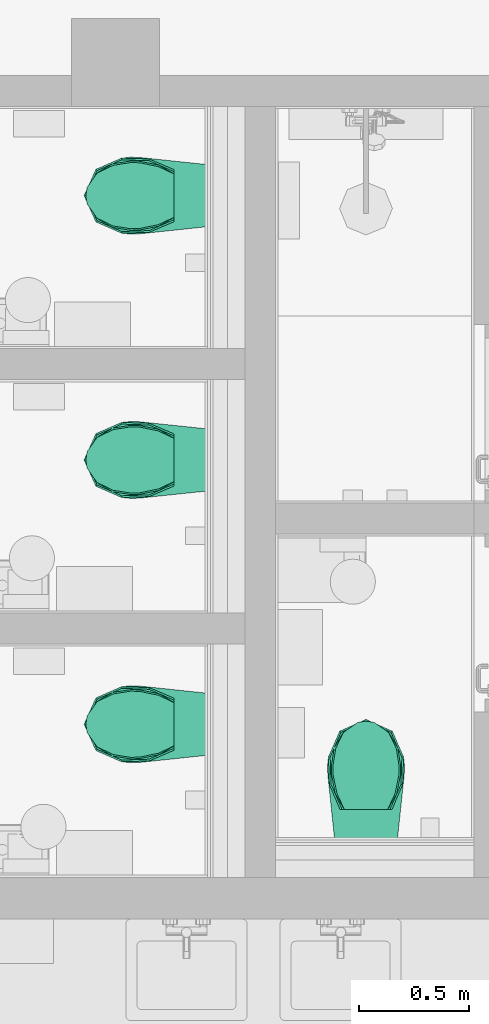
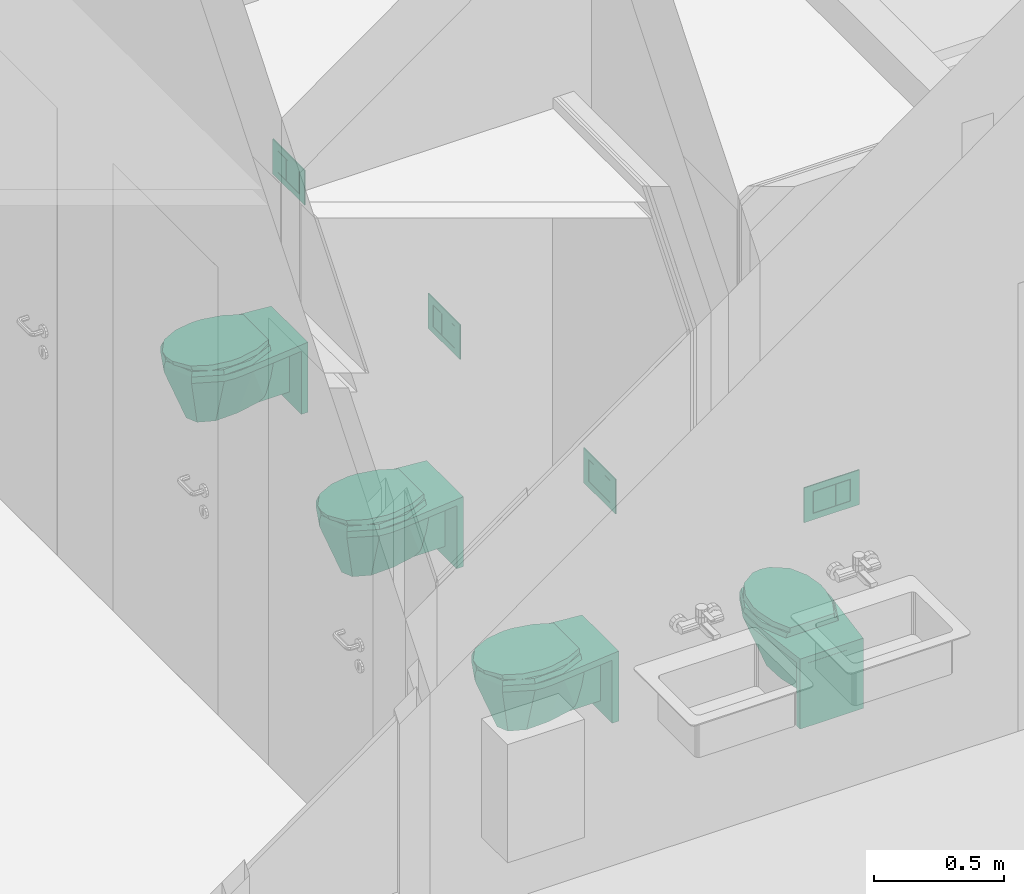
# One storey, part 247 of 301: 4 flow terminals.
"""IFC2X3 building model written with IfcOpenShell, lengths in millimetres."""

from ifc_helpers import new_model, entity, si_unit, converted_unit, derived_unit, money_unit, direction, frame, origin_with_axes, place, context, subcontext, project, spatial, faceted_brep, source, transform, mapped, type_object, element, save


model = new_model("IFC2X3")

# Units and contexts
model_context = context("Model", 3, precision=0.01, world=origin_with_axes(), true_north=direction((0.0, 1.0)))
body_context = subcontext(model_context, "Body", "Model", "MODEL_VIEW")
ifc_project = project(units=[si_unit("LENGTHUNIT", "METRE", prefix="MILLI"), si_unit("AREAUNIT", "SQUARE_METRE"), si_unit("VOLUMEUNIT", "CUBIC_METRE"), converted_unit("PLANEANGLEUNIT", "DEGREE", entity("IfcPlaneAngleMeasure", 0.0174532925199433), si_unit("PLANEANGLEUNIT", "RADIAN"), dimensions=[0, 0, 0, 0, 0, 0, 0]), money_unit("EUR"), converted_unit("TIMEUNIT", "Year", entity("IfcTimeMeasure", 31557600.0), si_unit("TIMEUNIT", "SECOND"), dimensions=[0, 0, 1, 0, 0, 0, 0]), si_unit("MASSUNIT", "GRAM", prefix="KILO"), si_unit("THERMODYNAMICTEMPERATUREUNIT", "DEGREE_CELSIUS"), si_unit("LUMINOUSINTENSITYUNIT", "LUMEN"), si_unit("ENERGYUNIT", "JOULE", prefix="MEGA"), derived_unit("THERMALCONDUCTANCEUNIT", [(si_unit("POWERUNIT", "WATT"), 1), (si_unit("LENGTHUNIT", "METRE"), -1), (si_unit("THERMODYNAMICTEMPERATUREUNIT", "KELVIN"), -1)]), derived_unit("SPECIFICHEATCAPACITYUNIT", [(si_unit("ENERGYUNIT", "JOULE"), 1), (si_unit("MASSUNIT", "GRAM", prefix="KILO"), -1), (si_unit("THERMODYNAMICTEMPERATUREUNIT", "KELVIN"), -1)]), derived_unit("MASSDENSITYUNIT", [(si_unit("MASSUNIT", "GRAM", prefix="KILO"), 1), (si_unit("VOLUMEUNIT", "CUBIC_METRE"), -1)])], contexts=[model_context])

# Site, building, storey
site_placement = place(None, frame((0.0, 0.0, 8650.0), z_axis=(0.0, 0.0, 1.0), x_axis=(1.0, 0.0, 0.0)))
site = spatial("IfcSite", under=ifc_project, at=site_placement, Name="43301:001:0844", CompositionType="ELEMENT")
building_placement = place(site_placement, origin_with_axes())
building = spatial("IfcBuilding", under=site, at=building_placement, Name="Kuressaare Ametikooli tuulikute mehaanikute õppekorpus", CompositionType="ELEMENT")
storey_placement = place(building_placement, origin_with_axes())
storey = spatial("IfcBuildingStorey", under=building, at=storey_placement, Name="1.korrus", CompositionType="ELEMENT", Elevation=0.0)

# Flow terminals
sanitary_terminal_type = type_object("IfcSanitaryTerminalType", Name="WC 27", PredefinedType="NOTDEFINED")
shared_shape = source(origin_with_axes(), body_context, "Body", "Brep", [
    faceted_brep([(-141.0283315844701, -29.31865370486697, 69.99999999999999), (-141.0283315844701, 0.4949050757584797, 69.99999999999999), (141.0283315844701, 0.4949050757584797, 69.99999999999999), (141.0283315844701, -29.31865370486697, 69.99999999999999), (-141.0283315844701, -29.31865370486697, 370.0), (-141.0283315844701, 0.4949050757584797, 370.0), (141.0283315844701, 0.4949050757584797, 370.0), (141.0283315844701, -29.31865370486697, 370.0)], [[[0, 1, 2, 3]], [[0, 4, 5, 1]], [[1, 5, 6, 2]], [[2, 6, 7, 3]], [[3, 7, 4, 0]], [[7, 6, 5, 4]]]),
    faceted_brep([(-101.7881776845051, -122.4661491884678, 370.0), (-164.8111927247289, -257.2969749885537, 370.0), (-170.4738719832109, -389.7973742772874, 370.0), (-119.554809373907, -506.3435444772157, 370.0), (0.0, -560.0, 370.0), (119.554809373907, -506.3435444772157, 370.0), (170.4738719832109, -389.7973742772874, 370.0), (164.8111927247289, -257.295981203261, 370.0), (101.7881776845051, -122.4661491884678, 370.0), (48.96817068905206, -87.43521908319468, 370.0), (48.96817068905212, -29.31865370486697, 370.0), (-48.96817068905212, -29.31865370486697, 370.0), (-48.96817068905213, -87.43521908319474, 370.0), (-63.65862189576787, -201.5126978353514, 370.0), (0.0, -179.8771255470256, 370.0), (63.65862189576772, -201.5126978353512, 370.0), (110.2599674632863, -260.6221805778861, 370.0), (127.3172437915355, -341.3672356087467, 370.0), (110.2599674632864, -422.1122906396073, 370.0), (63.65862189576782, -481.2217733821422, 370.0), (0.0, -502.8573456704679, 370.0), (-63.65862189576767, -481.2217733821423, 370.0), (-110.2599674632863, -422.1122906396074, 370.0), (-127.3172437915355, -341.3672356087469, 370.0), (-110.2599674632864, -260.6221805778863, 370.0), (-70.97348723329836, -270.8651255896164, 120.0), (-74.94382651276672, -372.4786779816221, 120.0), (-47.75865687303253, -440.0938417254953, 120.0), (0.0, -461.5278029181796, 120.0), (47.75865687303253, -440.0938417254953, 120.0), (74.94382651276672, -372.4786779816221, 120.0), (70.97348723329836, -270.8651255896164, 120.0), (48.96817068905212, -141.8100147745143, 135.0708656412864), (48.96817068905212, -132.9294031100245, 150.8349994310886), (48.96817068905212, -111.9632571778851, 220.0911688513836), (48.96817068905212, -168.852251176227, 120.0), (48.96817068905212, -29.31865370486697, 120.0), (-48.96817068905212, -29.31865370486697, 120.0), (-48.96817068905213, -168.852251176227, 120.0), (-48.96817068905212, -132.9294031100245, 150.8349994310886), (-24.48408534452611, -287.5770287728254, 170.0), (0.0, -279.2556548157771, 170.0), (24.48408534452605, -287.5770287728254, 170.0), (42.40767979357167, -310.3114452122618, 170.0), (48.96817068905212, -341.3672356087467, 170.0), (42.40767979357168, -372.4230260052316, 170.0), (24.48408534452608, -395.1574424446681, 170.0), (0.0, -403.4788164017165, 170.0), (-24.48408534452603, -395.1574424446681, 170.0), (-42.40767979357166, -372.4230260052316, 170.0), (-48.96817068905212, -341.3672356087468, 170.0), (-42.4076797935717, -310.311445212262, 170.0)], [[[0, 1, 2, 3, 4, 5, 6, 7, 8, 9, 10, 11, 12], [13, 14, 15, 16, 17, 18, 19, 20, 21, 22, 23, 24]], [[0, 25, 1]], [[1, 26, 2]], [[2, 27, 3]], [[3, 28, 4]], [[4, 29, 5]], [[5, 30, 6]], [[6, 31, 7]], [[8, 7, 32, 33]], [[8, 34, 9]], [[33, 32, 35, 36, 10, 9, 34]], [[10, 36, 37, 11]], [[12, 11, 37, 38, 39]], [[0, 12, 39]], [[13, 40, 41, 14]], [[14, 41, 42, 15]], [[15, 42, 43, 16]], [[16, 43, 44, 17]], [[17, 44, 45, 18]], [[18, 45, 46, 19]], [[19, 46, 47, 20]], [[20, 47, 48, 21]], [[21, 48, 49, 22]], [[22, 49, 50, 23]], [[23, 50, 51, 24]], [[24, 51, 40, 13]], [[25, 0, 39, 38]], [[25, 26, 1]], [[26, 27, 2]], [[27, 28, 3]], [[28, 29, 4]], [[29, 30, 5]], [[30, 31, 6]], [[7, 31, 35, 32]], [[8, 33, 34]], [[31, 30, 29, 28, 27, 26, 25, 38, 37, 36, 35]], [[40, 51, 50, 49, 48, 47, 46, 45, 44, 43, 42, 41]]]),
    faceted_brep([(174.8222455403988, -348.2949128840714, 370.0), (170.4738719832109, -389.7973742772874, 370.0), (119.554809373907, -506.3435444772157, 370.0), (0.0, -560.0, 370.0), (-119.554809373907, -506.3435444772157, 370.0), (-170.4738719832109, -389.7973742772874, 370.0), (-174.8222455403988, -348.2949128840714, 370.0), (-173.3473242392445, -306.5847503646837, 370.0), (-140.975445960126, 0.0, 370.0), (140.9734872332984, 0.0, 370.0), (173.3473242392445, -306.5847503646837, 370.0), (-83.6883665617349, -472.7512164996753, 370.0), (0.0, -510.3107353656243, 370.0), (83.6883665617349, -472.7512164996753, 370.0), (119.3317103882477, -391.1688973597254, 370.0), (122.3755718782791, -362.1171743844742, 370.0), (121.3431269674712, -332.9200606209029, 370.0), (98.68144106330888, -201.7886999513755, 370.0), (-98.68281217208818, -201.7886999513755, 370.0), (-121.3431269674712, -332.9200606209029, 370.0), (-122.3755718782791, -362.1171743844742, 370.0), (-119.3317103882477, -391.1688973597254, 370.0), (174.8222455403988, -348.2949128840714, 400.0), (170.4738719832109, -389.7973742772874, 400.0), (119.554809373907, -506.3435444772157, 400.0), (0.0, -560.0, 400.0), (-119.554809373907, -506.3435444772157, 400.0), (-170.4738719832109, -389.7973742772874, 400.0), (-174.8222455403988, -348.2949128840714, 400.0), (-173.3473242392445, -306.5847503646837, 400.0), (-140.975445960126, 0.0, 400.0), (140.9734872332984, 0.0, 400.0), (173.3473242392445, -306.5847503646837, 400.0), (0.0, -510.3107353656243, 400.0), (-83.6883665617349, -472.7512164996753, 400.0), (83.6883665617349, -472.7512164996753, 400.0), (119.3317103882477, -391.1688973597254, 400.0), (122.3755718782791, -362.1171743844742, 400.0), (121.3431269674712, -332.9200606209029, 400.0), (98.68144106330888, -201.7886999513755, 400.0), (-98.68281217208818, -201.7886999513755, 400.0), (-121.3431269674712, -332.9200606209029, 400.0), (-122.3755718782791, -362.1171743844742, 400.0), (-119.3317103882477, -391.1688973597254, 400.0)], [[[0, 1, 2, 3, 4, 5, 6, 7, 8, 9, 10], [11, 12, 13, 14, 15, 16, 17, 18, 19, 20, 21]], [[22, 23, 1, 0]], [[23, 24, 2, 1]], [[24, 25, 3, 2]], [[25, 26, 4, 3]], [[26, 27, 5, 4]], [[27, 28, 6, 5]], [[28, 29, 7, 6]], [[29, 30, 8, 7]], [[30, 31, 9, 8]], [[31, 32, 10, 9]], [[32, 22, 0, 10]], [[33, 12, 11, 34]], [[35, 13, 12, 33]], [[36, 14, 13, 35]], [[37, 15, 14, 36]], [[38, 16, 15, 37]], [[39, 17, 16, 38]], [[40, 18, 17, 39]], [[41, 19, 18, 40]], [[42, 20, 19, 41]], [[43, 21, 20, 42]], [[34, 11, 21, 43]], [[31, 30, 29, 28, 27, 26, 25, 24, 23, 22, 32], [40, 39, 38, 37, 36, 35, 33, 34, 43, 42, 41]]]),
    faceted_brep([(-170.4738719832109, -389.7973742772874, 400.0), (-166.4663168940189, -264.4263906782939, 400.0), (-118.2121021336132, -151.3163525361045, 400.0), (118.2121021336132, -151.3163525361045, 400.0), (166.4663168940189, -264.4263906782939, 400.0), (170.4738719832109, -389.7973742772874, 400.0), (119.554809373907, -506.3435444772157, 400.0), (0.0, -560.0, 400.0), (-119.554809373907, -506.3435444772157, 400.0), (-87.07689659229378, -411.9963613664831, 400.0), (-76.4888004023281, -438.0775703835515, 400.0), (-62.06856874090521, -459.4262123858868, 400.0), (-44.26109835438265, -474.4067566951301, 400.0), (-23.02579943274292, -483.9023013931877, 400.0), (0.0, -487.1544663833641, 400.0), (23.02579943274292, -483.9023013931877, 400.0), (44.26109835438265, -474.4067566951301, 400.0), (62.06856874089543, -459.4262123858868, 400.0), (76.4888004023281, -438.0775703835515, 400.0), (87.07689659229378, -411.9963613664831, 400.0), (94.51085540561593, -382.2763031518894, 400.0), (97.71606496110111, -351.7983255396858, 400.0), (96.61425296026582, -320.7429308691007, 400.0), (90.99294096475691, -286.7942733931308, 400.0), (81.3289539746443, -253.3384220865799, 400.0), (68.75412876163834, -223.4663237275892, 400.0), (-68.75448552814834, -223.4663237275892, 400.0), (-81.32886310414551, -253.3381075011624, 400.0), (-90.99294096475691, -286.7942733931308, 400.0), (-96.61425296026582, -320.7429308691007, 400.0), (-97.71606496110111, -351.7983255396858, 400.0), (-94.51085540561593, -382.2763031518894, 400.0), (-158.5902763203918, -264.9332211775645, 420.0000000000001), (-108.940468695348, -151.3163525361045, 420.0000000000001), (108.940468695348, -151.3163525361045, 420.0000000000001), (158.5902763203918, -264.9332211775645, 420.0000000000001), (162.8034977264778, -388.4070686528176, 420.0000000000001), (113.7912556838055, -501.0248055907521, 420.0000000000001), (0.0, -552.0944379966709, 420.0000000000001), (-113.7912556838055, -501.0248055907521, 420.0000000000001), (-162.8034977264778, -388.4070686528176, 420.0000000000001), (-76.4888004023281, -438.0775703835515, 420.0000000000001), (-87.07689659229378, -411.9963613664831, 420.0000000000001), (-62.06856874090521, -459.4262123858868, 420.0000000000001), (-44.26109835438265, -474.4067566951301, 420.0000000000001), (-23.02579943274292, -483.9023013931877, 420.0000000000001), (0.0, -487.1544663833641, 420.0000000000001), (23.02579943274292, -483.9023013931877, 420.0000000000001), (44.26109835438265, -474.4067566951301, 420.0000000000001), (62.06856874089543, -459.4262123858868, 420.0000000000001), (76.4888004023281, -438.0775703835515, 420.0000000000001), (87.07689659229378, -411.9963613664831, 420.0000000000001), (94.51085540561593, -382.2763031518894, 420.0000000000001), (97.71606496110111, -351.7983255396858, 420.0000000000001), (96.61425296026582, -320.7429308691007, 420.0000000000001), (90.99294096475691, -286.7942733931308, 420.0000000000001), (81.3289539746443, -253.3384220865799, 420.0000000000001), (68.75412876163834, -223.4663237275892, 420.0000000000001), (-68.75448552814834, -223.4663237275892, 420.0000000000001), (-81.32886310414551, -253.3381075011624, 420.0000000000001), (-90.99294096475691, -286.7942733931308, 420.0000000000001), (-96.61425296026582, -320.7429308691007, 420.0000000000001), (-97.71606496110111, -351.7983255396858, 420.0000000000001), (-94.51085540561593, -382.2763031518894, 420.0000000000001)], [[[0, 1, 2, 3, 4, 5, 6, 7, 8], [9, 10, 11, 12, 13, 14, 15, 16, 17, 18, 19, 20, 21, 22, 23, 24, 25, 26, 27, 28, 29, 30, 31]], [[0, 32, 1]], [[1, 33, 2]], [[3, 2, 33, 34]], [[3, 35, 4]], [[4, 36, 5]], [[5, 37, 6]], [[6, 38, 7]], [[7, 39, 8]], [[8, 40, 0]], [[41, 10, 9, 42]], [[43, 11, 10, 41]], [[44, 12, 11, 43]], [[45, 13, 12, 44]], [[46, 14, 13, 45]], [[47, 15, 14, 46]], [[48, 16, 15, 47]], [[49, 17, 16, 48]], [[50, 18, 17, 49]], [[51, 19, 18, 50]], [[52, 20, 19, 51]], [[53, 21, 20, 52]], [[54, 22, 21, 53]], [[55, 23, 22, 54]], [[56, 24, 23, 55]], [[57, 25, 24, 56]], [[58, 26, 25, 57]], [[59, 27, 26, 58]], [[60, 28, 27, 59]], [[61, 29, 28, 60]], [[62, 30, 29, 61]], [[63, 31, 30, 62]], [[42, 9, 31, 63]], [[0, 40, 32]], [[1, 32, 33]], [[34, 33, 32, 40, 39, 38, 37, 36, 35], [60, 59, 58, 57, 56, 55, 54, 53, 52, 51, 50, 49, 48, 47, 46, 45, 44, 43, 41, 42, 63, 62, 61]], [[3, 34, 35]], [[4, 35, 36]], [[5, 36, 37]], [[6, 37, 38]], [[7, 38, 39]], [[8, 39, 40]]]),
    faceted_brep([(107.5993284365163, -494.4181209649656, 420.0000000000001), (37.93662119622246, -546.1188070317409, 440.0000000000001), (39.85813221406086, -538.8154789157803, 420.0000000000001), (102.412130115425, -501.0248055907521, 440.0000000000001), (0.0, -552.0944379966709, 440.0000000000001), (0.0, -545.0932206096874, 420.0000000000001), (-39.85813221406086, -538.8154789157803, 420.0000000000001), (-107.5993284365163, -494.4181209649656, 420.0000000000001), (-144.3513116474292, -430.2603362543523, 420.0000000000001), (-157.3400209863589, -348.2949128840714, 420.0000000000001), (-156.01259181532, -306.5847503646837, 420.0000000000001), (-139.3844700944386, -223.3443004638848, 420.0000000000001), (-99.17339219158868, -151.3163525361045, 420.0000000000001), (99.17339219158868, -151.3163525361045, 420.0000000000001), (139.3844700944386, -223.3443004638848, 420.0000000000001), (156.01259181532, -306.5847503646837, 420.0000000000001), (157.3400209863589, -348.2949128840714, 420.0000000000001), (144.3504302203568, -430.2603362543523, 420.0000000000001), (137.6912486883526, -427.7848170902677, 440.0000000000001), (150.3317943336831, -348.0176467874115, 440.0000000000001), (149.0405036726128, -307.4274802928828, 440.0000000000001), (132.0192654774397, -223.5758524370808, 440.0000000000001), (98.04642182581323, -151.3163525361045, 440.0000000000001), (-98.04642182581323, -151.3163525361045, 440.0000000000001), (-132.0192654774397, -223.5758524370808, 440.0000000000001), (-149.0405036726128, -307.4274802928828, 440.0000000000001), (-150.3317943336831, -348.0176467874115, 440.0000000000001), (-137.6912486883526, -427.7848170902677, 440.0000000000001), (-102.412130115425, -501.0248055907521, 440.0000000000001), (-37.93662119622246, -546.1188070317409, 440.0000000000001)], [[[0, 1, 2]], [[0, 3, 1]], [[2, 1, 4]], [[0, 2, 5, 6, 7, 8, 9, 10, 11, 12, 13, 14, 15, 16, 17]], [[17, 3, 0]], [[3, 18, 19, 20, 21, 22, 23, 24, 25, 26, 27, 28, 29, 4, 1]], [[2, 4, 5]], [[5, 29, 6]], [[6, 28, 7]], [[7, 27, 8]], [[8, 26, 9]], [[9, 25, 10]], [[10, 24, 11]], [[11, 23, 12]], [[12, 23, 22, 13]], [[13, 21, 14]], [[14, 20, 15]], [[15, 19, 16]], [[16, 18, 17]], [[17, 18, 3]], [[16, 19, 18]], [[15, 20, 19]], [[14, 21, 20]], [[13, 22, 21]], [[11, 24, 23]], [[10, 25, 24]], [[9, 26, 25]], [[8, 27, 26]], [[7, 28, 27]], [[6, 29, 28]], [[5, 4, 29]]]),
    faceted_brep([(83.0, 0.0, 1036.0), (83.0, -5.0, 1036.0), (83.0, -4.999999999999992, 1170.0), (83.0, 0.0, 1170.0), (123.0, 0.0, 1036.0), (123.0, -5.0, 1036.0), (123.0, -4.999999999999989, 1200.0), (-123.0, -4.999999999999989, 1200.0), (-123.0, -5.0, 1036.0), (-83.0, -5.0, 1036.0), (-83.0, -4.999999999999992, 1170.0), (-83.0, 0.0, 1170.0), (-83.0, 0.0, 1036.0), (-123.0, 0.0, 1036.0), (-123.0, 0.0, 1200.0), (123.0, 0.0, 1200.0)], [[[0, 1, 2, 3]], [[4, 5, 1, 0]], [[1, 5, 6, 7, 8, 9, 10, 2]], [[3, 2, 10, 11]], [[0, 3, 11, 12, 13, 14, 15, 4]], [[15, 6, 5, 4]], [[14, 7, 6, 15]], [[13, 8, 7, 14]], [[12, 9, 8, 13]], [[11, 10, 9, 12]]]),
    faceted_brep([(-83.0, 0.0, 1036.0), (-83.0, -5.0, 1036.0), (-83.0, -4.999999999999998, 1066.0), (-83.0, 0.0, 1066.0), (83.0, 0.0, 1036.0), (83.0, -5.0, 1036.0), (83.0, -4.999999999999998, 1066.0), (83.0, 0.0, 1066.0)], [[[0, 1, 2, 3]], [[4, 5, 1, 0]], [[1, 5, 6, 2]], [[3, 2, 6, 7]], [[0, 3, 7, 4]], [[7, 6, 5, 4]]]),
    faceted_brep([(81.0, 0.0, 1068.0), (81.0, -4.999999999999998, 1068.0), (-17.0, -4.999999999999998, 1068.0), (-17.0, 0.0, 1068.0), (81.0, 0.0, 1168.0), (81.0, -4.999999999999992, 1168.0), (-17.0, -4.999999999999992, 1168.0), (-17.0, 0.0, 1168.0)], [[[0, 1, 2, 3]], [[4, 5, 1, 0]], [[1, 5, 6, 2]], [[3, 2, 6, 7]], [[0, 3, 7, 4]], [[7, 6, 5, 4]]]),
    faceted_brep([(-19.0, 0.0, 1168.0), (-19.0, -4.999999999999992, 1168.0), (-19.0, -4.999999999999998, 1068.0), (-19.0, 0.0, 1068.0), (-81.0, 0.0, 1168.0), (-81.0, -4.999999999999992, 1168.0), (-81.0, -4.999999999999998, 1068.0), (-81.0, 0.0, 1068.0)], [[[0, 1, 2, 3]], [[4, 5, 1, 0]], [[1, 5, 6, 2]], [[3, 2, 6, 7]], [[0, 3, 7, 4]], [[7, 6, 5, 4]]]),
])
for number, where, z_axis, x_axis, name in (
    (1, (127055.2610393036, 20231.46997143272, 0.0), (0.0, 0.0, 1.0), (-0.9999999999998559, 5.36943691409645e-07, 0.0), "WC1"),
    (2, (126335.2603308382, 23169.47014881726, 0.0), (0.0, 0.0, 1.0), (0.0, -1.0, 0.0), "WC1"),
    (3, (126335.2608427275, 21969.46999817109, 0.0), (0.0, 0.0, 1.0), (0.0, -1.0, 0.0), "WC1"),
    (4, (126335.2610035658, 20769.46999817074, 0.0), (0.0, 0.0, 1.0), (0.0, -1.0, 0.0), "WC1"),
):
    element("IfcFlowTerminal", number, at=place(storey_placement, frame(where, z_axis=z_axis, x_axis=x_axis)), inside=storey, type_object=sanitary_terminal_type, Name=name, context=body_context, shape_type="MappedRepresentation", body=[
        mapped(shared_shape, transform((0.0, 0.0, 0.0))),
    ])

save(model, "model.ifc")
